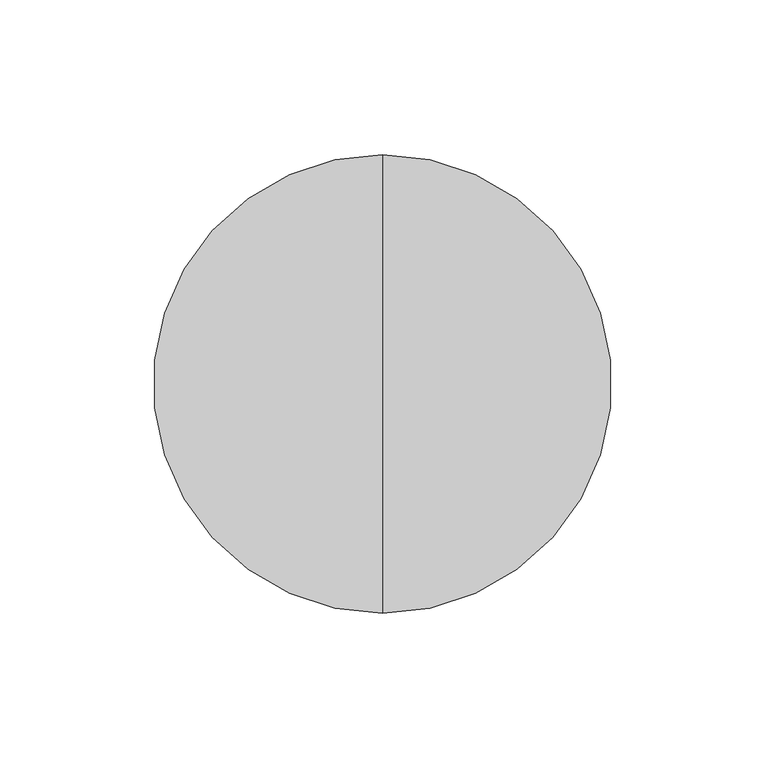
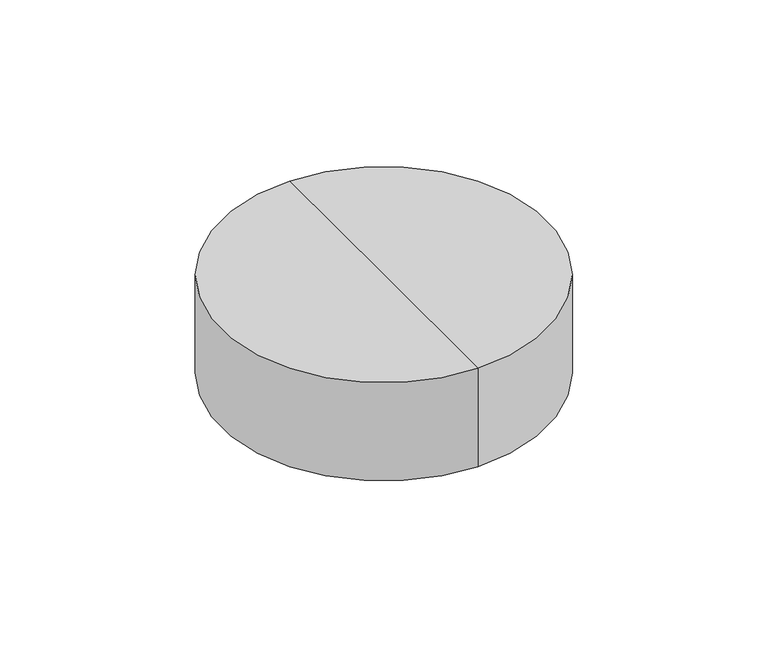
"""IFC4 building model written with IfcOpenShell, lengths in millimetres: light fixture geometry, LF_ОП_ТЛ : Solo_S10Вт."""

import ifcopenshell
import ifcopenshell.guid

model = None  # the IFC model being written
_history = None  # IfcOwnerHistory: only IFC2X3 demands one
_inside = {}  # id of a spatial element -> (the spatial element, [elements in it])
_under = {}  # id of a project, library or spatial element -> (it, [spatial elements below it])
_declared = {}  # id of a project -> (the project, [libraries it declares])
_typed = {}  # id of a type object -> (the type object, [elements of that type])
_made_of = {}  # id of a material, layer set ... -> (it, [elements and type objects made of it])


def new_model(schema):
    """Start an empty IFC model of exactly this schema.

    Asked for "IFC4X3", IfcOpenShell would pick the latest addendum, in which some entities
    have other attributes; the version numbers below select the first issue.
    IFC2X3 requires an IfcOwnerHistory on every rooted entity: one is made here for all.
    """
    global model, _history
    if schema == "IFC4X3":
        model = ifcopenshell.file(schema_version=(4, 3, 0, 0))
    else:
        model = ifcopenshell.file(schema=schema)
    _inside.clear()
    _under.clear()
    _declared.clear()
    _typed.clear()
    _made_of.clear()
    _history = None
    if model.schema == "IFC2X3":
        org = make("IfcOrganization", Name="unknown")
        user = make(
            "IfcPersonAndOrganization",
            ThePerson=make("IfcPerson", FamilyName="unknown"),
            TheOrganization=org,
        )
        app = make(
            "IfcApplication",
            ApplicationDeveloper=org,
            Version="unknown",
            ApplicationFullName="unknown",
            ApplicationIdentifier="unknown",
        )
        _history = make(
            "IfcOwnerHistory",
            OwningUser=user,
            OwningApplication=app,
            ChangeAction="ADDED",
            CreationDate=0,
        )
    return model


def make(cls, **values):
    """One entity of the class cls with the attributes given. An attribute that is None is left unset."""
    return model.create_entity(
        cls, **{name: value for name, value in values.items() if value is not None}
    )


def rooted(cls, **values):
    """An entity with a GlobalId (a new one), such as an element, a storey or a relation."""
    return make(cls, GlobalId=ifcopenshell.guid.new(), OwnerHistory=_history, **values)


def si_unit(unit_type, name, prefix=None):
    """IfcSIUnit, for example si_unit("LENGTHUNIT", "METRE", prefix="MILLI")."""
    return make("IfcSIUnit", UnitType=unit_type, Prefix=prefix, Name=name)


def assignment(units):
    """IfcUnitAssignment: the units of a project."""
    return None if units is None else make("IfcUnitAssignment", Units=units)


def point(xyz):
    """IfcCartesianPoint."""
    return None if xyz is None else make("IfcCartesianPoint", Coordinates=xyz)


def direction(xyz):
    """IfcDirection."""
    return None if xyz is None else make("IfcDirection", DirectionRatios=xyz)


def frame(location, z_axis=None, x_axis=None):
    """IfcAxis2Placement3D, a coordinate frame: its origin and axes. An axis left out is left unset."""
    return make(
        "IfcAxis2Placement3D",
        Location=point(location),
        Axis=direction(z_axis),
        RefDirection=direction(x_axis),
    )


def origin():
    """The frame at (0, 0, 0) with its axes left unset."""
    return frame((0.0, 0.0, 0.0))


def place(relative_to, where):
    """IfcLocalPlacement: puts the frame where relative to a parent placement (None: the world)."""
    return make(
        "IfcLocalPlacement", PlacementRelTo=relative_to, RelativePlacement=where
    )


def context(
    kind, dimensions, precision=None, world=None, true_north=None, identifier=None
):
    """IfcGeometricRepresentationContext, for example the 3D "Model" context."""
    return make(
        "IfcGeometricRepresentationContext",
        ContextIdentifier=identifier,
        ContextType=kind,
        CoordinateSpaceDimension=dimensions,
        Precision=precision,
        WorldCoordinateSystem=world,
        TrueNorth=true_north,
    )


def project(units=None, contexts=None):
    """IfcProject with its units and contexts."""
    return rooted(
        "IfcProject",
        Name="project",
        RepresentationContexts=contexts,
        UnitsInContext=assignment(units),
    )


def spatial(cls, under=None, at=None, **own):
    """A site, building, storey or space (cls), placed at a placement, below another one or the project."""
    s = rooted(cls, ObjectPlacement=at, **own)
    if under is not None:
        _under.setdefault(under.id(), (under, []))[1].append(s)
    return s


def circle_curve(where, radius):
    """IfcCircle in the frame where."""
    return make("IfcCircle", Position=where, Radius=radius)


def ellipse_curve(where, semi_axis1, semi_axis2):
    """IfcEllipse in the frame where."""
    return make(
        "IfcEllipse", Position=where, SemiAxis1=semi_axis1, SemiAxis2=semi_axis2
    )


def trimmed(basis, trim1, trim2, sense, master):
    """IfcTrimmedCurve: the piece of a basis curve between two trims."""
    return make(
        "IfcTrimmedCurve",
        BasisCurve=basis,
        Trim1=trim1,
        Trim2=trim2,
        SenseAgreement=sense,
        MasterRepresentation=master,
    )


def shape(context_of_items, identifier, shape_type, items):
    """IfcShapeRepresentation: the items that make up one representation, for example the "Body"."""
    return make(
        "IfcShapeRepresentation",
        ContextOfItems=context_of_items,
        RepresentationIdentifier=identifier,
        RepresentationType=shape_type,
        Items=items,
    )


def source(mapping_origin, context_of_items, identifier, shape_type, items):
    """IfcRepresentationMap: a shape defined once, which mapped items show again and again."""
    return make(
        "IfcRepresentationMap",
        MappingOrigin=mapping_origin,
        MappedRepresentation=shape(context_of_items, identifier, shape_type, items),
    )


def transform(
    local_origin,
    x_axis=None,
    y_axis=None,
    z_axis=None,
    scale=None,
    scale2=None,
    scale3=None,
    uniform=True,
):
    """IfcCartesianTransformationOperator3D, or its non-uniform kind. x_axis, y_axis, z_axis: its Axis1, 2, 3."""
    if uniform:
        return make(
            "IfcCartesianTransformationOperator3D",
            Axis1=direction(x_axis),
            Axis2=direction(y_axis),
            LocalOrigin=point(local_origin),
            Scale=scale,
            Axis3=direction(z_axis),
        )
    return make(
        "IfcCartesianTransformationOperator3DnonUniform",
        Axis1=direction(x_axis),
        Axis2=direction(y_axis),
        LocalOrigin=point(local_origin),
        Scale=scale,
        Axis3=direction(z_axis),
        Scale2=scale2,
        Scale3=scale3,
    )


def mapped(mapping_source, mapping_target):
    """IfcMappedItem: shows the shape of a source again, moved by a transform."""
    return make(
        "IfcMappedItem", MappingSource=mapping_source, MappingTarget=mapping_target
    )


def made_of(thing, what):
    """Note that an element or type object is made of a material, layer set ...; save() writes the relation."""
    if what is not None:
        _made_of.setdefault(what.id(), (what, []))[1].append(thing)
    return thing


def element(
    cls,
    number,
    at=None,
    inside=None,
    cuts=None,
    type_object=None,
    material=None,
    context=None,
    identifier="Body",
    shape_type=None,
    held_by="IfcProductDefinitionShape",
    body=None,
    shapes=None,
    **own,
):
    """One element of the class cls, such as IfcWall. Its Tag is "e" and its number.

    at: its placement. inside: the storey or other place that contains it. cuts: it is an
    opening in that element (IfcRelVoidsElement). A single representation is given by context,
    identifier, shape_type and body (its items); several are given by shapes. held_by: the class
    of the entity that holds the representations. save() writes the other relations.
    """
    e = rooted(cls, Tag="e%d" % number, ObjectPlacement=at, **own)
    if body is not None:
        shapes = [shape(context, identifier, shape_type, body)]
    if shapes is not None:
        e.Representation = make(held_by, Representations=shapes)
    if inside is not None:
        _inside.setdefault(inside.id(), (inside, []))[1].append(e)
    if cuts is not None:
        rooted(
            "IfcRelVoidsElement", RelatingBuildingElement=cuts, RelatedOpeningElement=e
        )
    if type_object is not None:
        _typed.setdefault(type_object.id(), (type_object, []))[1].append(e)
    return made_of(e, material)


def aggregate(whole, parts):
    """IfcRelAggregates: a whole, such as a stair, and the parts it consists of."""
    return rooted("IfcRelAggregates", RelatingObject=whole, RelatedObjects=parts)


def save(model, path):
    """Write the relations noted so far, then the file.

    IfcRelAggregates (storeys below a building ...), IfcRelContainedInSpatialStructure (elements
    in a storey), IfcRelDefinesByType, IfcRelAssociatesMaterial and IfcRelDeclares: one each for
    every whole, place, type object, material and project.
    """
    for whole, parts in _under.values():
        aggregate(whole, parts)
    for where, things in _inside.values():
        rooted(
            "IfcRelContainedInSpatialStructure",
            RelatedElements=things,
            RelatingStructure=where,
        )
    for kind, things in _typed.values():
        rooted("IfcRelDefinesByType", RelatedObjects=things, RelatingType=kind)
    for what, things in _made_of.values():
        rooted("IfcRelAssociatesMaterial", RelatedObjects=things, RelatingMaterial=what)
    for by, libraries in _declared.values():
        rooted("IfcRelDeclares", RelatingContext=by, RelatedDefinitions=libraries)
    model.write(path)


def plane_surface(at):
    """IfcPlane: the flat surface through the origin of the frame at, square to its z axis."""
    return make("IfcPlane", Position=at)


def cylinder_surface(at, radius):
    """IfcCylindricalSurface: all points at the distance radius from the z axis of the frame at."""
    return make("IfcCylindricalSurface", Position=at, Radius=radius)


def revolved_surface(curve, axis_point, axis_direction):
    """IfcSurfaceOfRevolution: the curve turned about the line through axis_point along axis_direction."""
    return make(
        "IfcSurfaceOfRevolution",
        SweptCurve=make("IfcArbitraryOpenProfileDef", ProfileType="CURVE", Curve=curve),
        AxisPosition=make("IfcAxis1Placement", Location=point(axis_point), Axis=direction(axis_direction)),
    )


def advanced_brep(points, edges, surfaces, faces):
    """IfcAdvancedBrep: a solid bounded by faces that lie on surfaces and meet in shared edges.

    An edge is (start, end): straight between two places in points (the first is 0);
    or (start, end, curve); or (start, end, curve, False) where it runs against its curve.
    A face is (place in surfaces, loops), or (place, loops, False) where it looks against
    its surface's normal. A loop lists edges by number (the first is 1), with a minus sign
    where the edge is run from its end to its start. The first loop is the outer one.
    """
    corners = [point(p) for p in points]
    vertices = [make("IfcVertexPoint", VertexGeometry=c) for c in corners]
    made = []
    for start, end, *more in edges:
        made.append(
            make(
                "IfcEdgeCurve",
                EdgeStart=vertices[start],
                EdgeEnd=vertices[end],
                EdgeGeometry=more[0] if more else make("IfcPolyline", Points=[corners[start], corners[end]]),
                SameSense=more[1] if len(more) > 1 else True,
            )
        )
    hull = []
    for where, loops, *sense in faces:
        bounds = []
        for j, loop in enumerate(loops):
            ring = [make("IfcOrientedEdge", EdgeElement=made[abs(k) - 1], Orientation=k > 0) for k in loop]
            bounds.append(
                make(
                    "IfcFaceOuterBound" if j == 0 else "IfcFaceBound",
                    Bound=make("IfcEdgeLoop", EdgeList=ring),
                    Orientation=True,
                )
            )
        hull.append(make("IfcAdvancedFace", Bounds=bounds, FaceSurface=surfaces[where], SameSense=sense[0] if sense else True))
    return make("IfcAdvancedBrep", Outer=make("IfcClosedShell", CfsFaces=hull))


def light_fixture_c5f3bd1a(model_context):
    return source(origin(), model_context, "Body", "AdvancedBrep", [
        advanced_brep(
        [(0.0, -74.0, -47.0), (0.0, 74.0, -47.0), (0.0, 0.0, -57.0), (0.0, -74.0, 0.0), (0.0, 74.0, 0.0), (0.0, 0.0, 0.0)],
        [
            (0, 1, circle_curve(frame((0.0, 0.0, -47.0), z_axis=(0.0, 0.0, -1.0), x_axis=(0.0, 1.0, 0.0)), 74.0)),
            (1, 2, circle_curve(frame((0.0, 3.6788471, 194.5765313), z_axis=(-1.0, 0.0, 0.0), x_axis=(0.0, 1.0, 0.0)), 251.6034281)),
            (2, 0, circle_curve(frame((0.0, -3.6788471, 194.5765313), z_axis=(-1.0, 0.0, 0.0), x_axis=(0.0, -1.0, 0.0)), 251.6034281)),
            (1, 0, circle_curve(frame((0.0, 0.0, -47.0), z_axis=(0.0, 0.0, -1.0), x_axis=(0.0, 1.0, 0.0)), 74.0)),
            (3, 4, circle_curve(frame((0.0, 0.0, 0.0), z_axis=(0.0, 0.0, -1.0), x_axis=(0.0, 1.0, 0.0)), 74.0)),
            (4, 1),
            (0, 3),
            (4, 3, circle_curve(frame((0.0, 0.0, 0.0), z_axis=(0.0, 0.0, -1.0), x_axis=(0.0, 1.0, 0.0)), 74.0)),
            (5, 4),
            (3, 5),
        ],
        [
            revolved_surface(trimmed(ellipse_curve(frame((0.0, 3.6788471, 194.5765313), z_axis=(1.0, 0.0, 0.0), x_axis=(0.0, 1.0, 0.0)), 251.6034281, 251.6034281), [point((0.0, 0.0, -57.0))], [point((0.0, 74.0, -47.0))], True, "CARTESIAN"), (0.0, 0.0, 75.0), (0.0, 0.0, 1.0)),
            cylinder_surface(frame((0.0, 0.0, 75.0), z_axis=(0.0, 0.0, 1.0), x_axis=(0.0, 1.0, 0.0)), 74.0),
            plane_surface(frame((0.0, 0.0, 0.0), z_axis=(0.0, 0.0, 1.0), x_axis=(0.0, 1.0, 0.0))),
        ],
        [
            (0, [[1, 2, 3]]),
            (0, [[4, -3, -2]]),
            (1, [[5, 6, -1, 7]]),
            (1, [[8, -7, -4, -6]]),
            (2, [[9, -5, 10]]),
            (2, [[-10, -8, -9]]),
        ],
    ),
    ])


if __name__ == "__main__":
    model = new_model("IFC4")
    model_context = context("Model", 3, world=origin())
    ifc_project = project(units=[si_unit("LENGTHUNIT", "METRE", prefix="MILLI")], contexts=[model_context])
    site = spatial("IfcSite", under=ifc_project)
    building = spatial("IfcBuilding", under=site)
    placement = place(None, origin())
    light_fixture_shape = light_fixture_c5f3bd1a(model_context)
    element("IfcLightFixture", 1, ObjectType="LF_ОП_ТЛ : Solo_S10Вт", at=placement, inside=building, context=model_context, shape_type="MappedRepresentation", body=[
        mapped(light_fixture_shape, transform((0.0, 0.0, 0.0), x_axis=(1.0, 0.0, 0.0), y_axis=(0.0, 1.0, 0.0), z_axis=(0.0, 0.0, 1.0))),
    ])
    save(model, "model.ifc")
